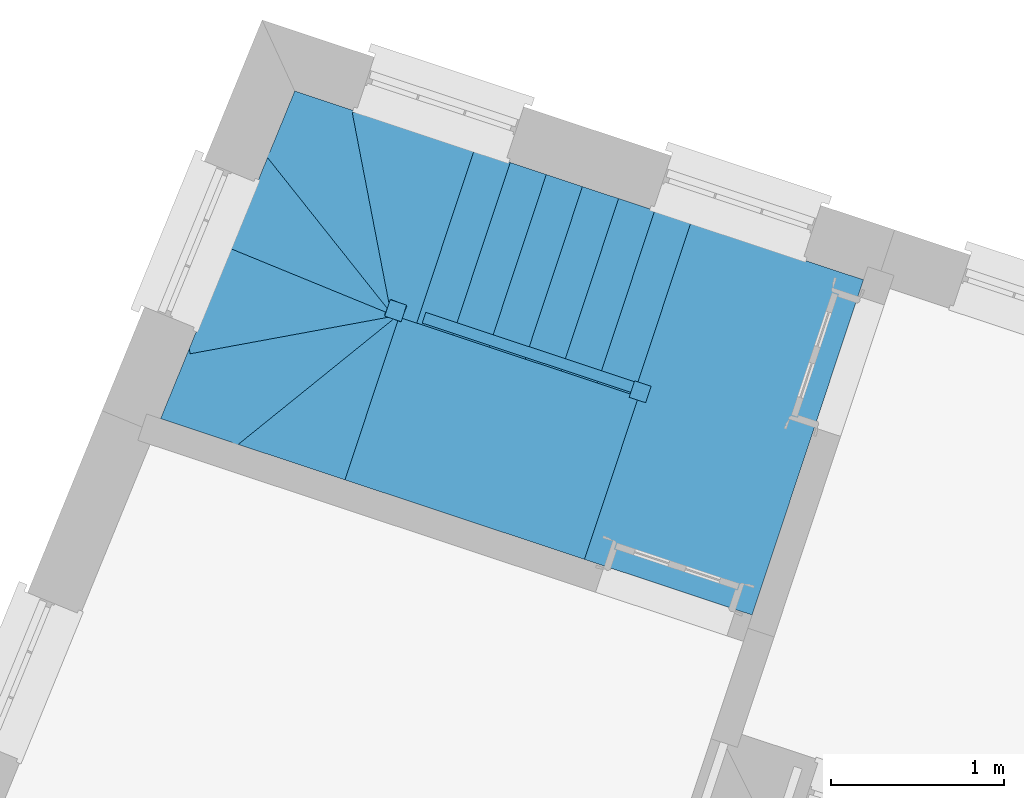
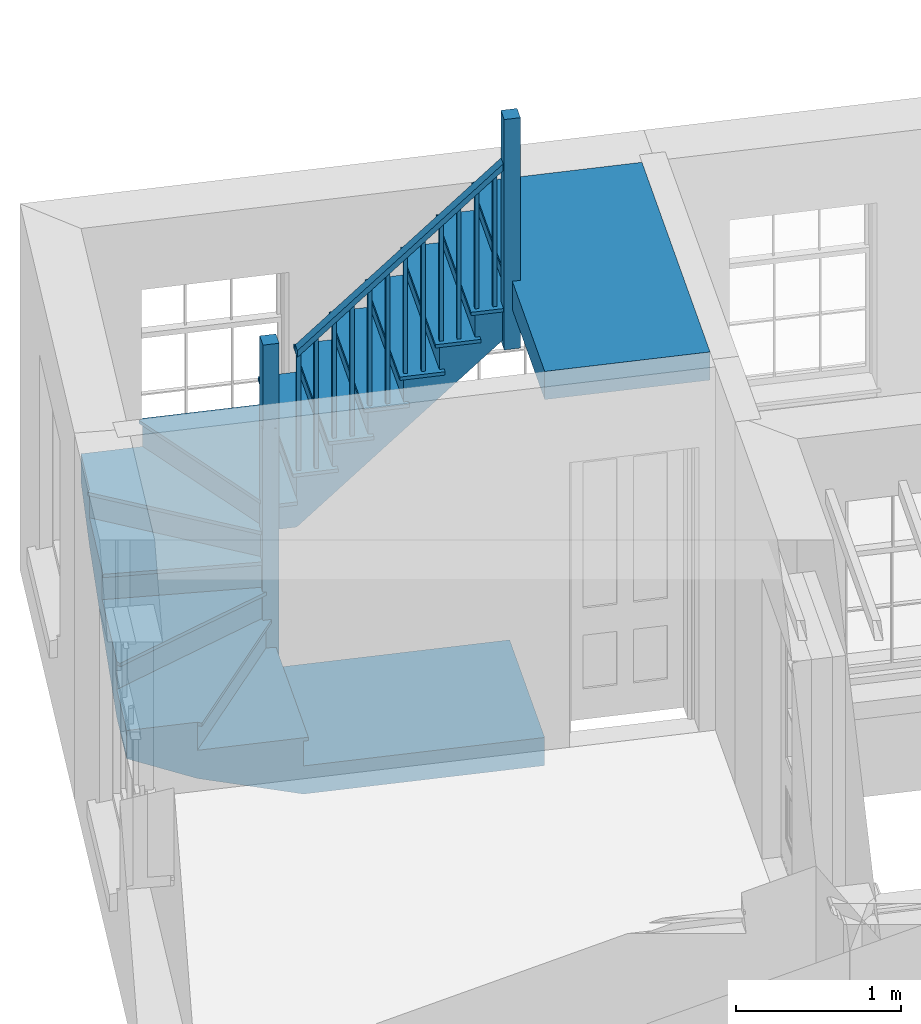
# One storey, part 6 of 6: 1 stair.
"""IFC4 building model written with IfcOpenShell, lengths in metres."""

from ifc_helpers import new_model, si_unit, frame, origin, origin_with_axes, place, context, subcontext, project, spatial, faceted_brep, element, save


model = new_model("IFC4")

# Units and contexts
model_context = context("Model", 3, world=origin_with_axes())
body_context = subcontext(model_context, "Body", "Model", "MODEL_VIEW")
ifc_project = project(units=[si_unit("PLANEANGLEUNIT", "RADIAN"), si_unit("MASSUNIT", "GRAM", prefix="KILO"), si_unit("FORCEUNIT", "NEWTON", prefix="KILO"), si_unit("LENGTHUNIT", "METRE"), si_unit("AREAUNIT", "SQUARE_METRE"), si_unit("VOLUMEUNIT", "CUBIC_METRE")], contexts=[model_context, model_context])

# Sites, building, storey
site_1_placement = place(None, origin_with_axes())
site_1 = spatial("IfcSite", under=ifc_project, at=site_1_placement, Name="Tamar")
site_2_placement = place(site_1_placement, origin_with_axes())
site_2 = spatial("IfcSite", under=site_1, at=site_2_placement, Name="Site plot-16", CompositionType="ELEMENT")
building_placement = place(None, origin_with_axes())
building = spatial("IfcBuilding", under=site_2, at=building_placement, Name="Building plot-16", CompositionType="ELEMENT")
storey_placement = place(None, frame((0.0, 0.0, 29.45), z_axis=(0.0, 0.0, 1.0), x_axis=(1.0, 0.0, 0.0)))
storey = spatial("IfcBuildingStorey", under=building, at=storey_placement, Name="plot-16 1", CompositionType="ELEMENT", Elevation=29.45)

# Stair
stair_placement = place(None, origin())
element("IfcStair", 1, at=stair_placement, inside=storey, Name="Stair", PredefinedType="NOTDEFINED", context=body_context, shape_type="Brep", body=[
    faceted_brep([(256.620166, 297.858366, 31.942308), (256.941605, 298.826727, 31.942308), (256.732808, 298.896036, 31.942308), (256.411368, 297.927675, 31.942308), (256.411368, 297.927675, 31.526923), (256.732808, 298.896036, 31.526923), (256.941605, 298.826727, 31.734615), (256.620166, 297.858366, 31.734615)], [[[0, 1, 2, 3]], [[4, 5, 6, 7]], [[7, 6, 1, 0]], [[1, 6, 5, 2]], [[5, 4, 3, 2]], [[3, 4, 7, 0]]]),
    faceted_brep([(256.732808, 298.896036, 31.917308), (256.704335, 298.905487, 31.917308), (256.732808, 298.896036, 31.942308), (256.970077, 298.817276, 31.917308), (256.941605, 298.826727, 31.917308), (256.941605, 298.826727, 31.942308), (256.704335, 298.905487, 31.942308), (256.970077, 298.817276, 31.942308), (256.373445, 297.908654, 31.942308), (256.411368, 297.927675, 31.942308), (256.411368, 297.927675, 31.917308), (256.373445, 297.908654, 31.917308), (256.639187, 297.820443, 31.942308), (256.620166, 297.858366, 31.942308), (256.620166, 297.858366, 31.917308), (256.639187, 297.820443, 31.917308)], [[[0, 1, 2]], [[3, 4, 5]], [[1, 6, 2]], [[7, 3, 5]], [[2, 6, 8, 9]], [[0, 2, 9, 10]], [[1, 0, 10, 11]], [[6, 1, 11, 8]], [[9, 8, 12, 13]], [[10, 9, 13, 14]], [[11, 10, 14, 15]], [[8, 11, 15, 12]], [[13, 12, 7, 5]], [[14, 13, 5, 4]], [[15, 14, 4, 3]], [[12, 15, 3, 7]]]),
    faceted_brep([(256.411368, 297.927675, 32.842308), (256.435095, 297.919799, 32.842308), (256.442971, 297.943526, 32.842308), (256.419244, 297.951402, 32.842308), (256.419244, 297.951402, 31.942308), (256.442971, 297.943526, 31.942308), (256.435095, 297.919799, 31.942308), (256.411368, 297.927675, 31.942308)], [[[0, 1, 2, 3]], [[4, 5, 6, 7]], [[7, 6, 1, 0]], [[6, 5, 2, 1]], [[5, 4, 3, 2]], [[4, 7, 0, 3]]]),
    faceted_brep([(256.515767, 297.893021, 32.946154), (256.539494, 297.885145, 32.946154), (256.54737, 297.908872, 32.946154), (256.523643, 297.916748, 32.946154), (256.523643, 297.916748, 31.942308), (256.54737, 297.908872, 31.942308), (256.539494, 297.885145, 31.942308), (256.515767, 297.893021, 31.942308)], [[[0, 1, 2, 3]], [[4, 5, 6, 7]], [[7, 6, 1, 0]], [[6, 5, 2, 1]], [[5, 4, 3, 2]], [[4, 7, 0, 3]]]),
    faceted_brep([(256.425545, 297.970384, 32.792308), (256.405068, 297.908693, 32.792308), (256.405068, 297.908693, 32.842308), (256.425545, 297.970384, 32.842308), (256.613865, 297.839385, 33.0), (256.634342, 297.901075, 33.0), (256.634342, 297.901075, 33.05), (256.613865, 297.839385, 33.05)], [[[0, 1, 2, 3]], [[4, 5, 6, 7]], [[0, 5, 4, 1]], [[3, 2, 7, 6]], [[0, 3, 6, 5]], [[2, 1, 4, 7]]]),
    faceted_brep([(256.411368, 297.927675, 31.734615), (256.732808, 298.896036, 31.734615), (256.52401, 298.965344, 31.734615), (256.202571, 297.996984, 31.734615), (256.202571, 297.996984, 31.319231), (256.52401, 298.965344, 31.319231), (256.732808, 298.896036, 31.526923), (256.411368, 297.927675, 31.526923)], [[[0, 1, 2, 3]], [[4, 5, 6, 7]], [[7, 6, 1, 0]], [[1, 6, 5, 2]], [[5, 4, 3, 2]], [[3, 4, 7, 0]]]),
    faceted_brep([(256.495538, 298.974796, 31.709615), (256.495538, 298.974796, 31.734615), (256.52401, 298.965344, 31.709615), (256.76128, 298.886585, 31.734615), (256.76128, 298.886585, 31.709615), (256.732808, 298.896036, 31.709615), (256.52401, 298.965344, 31.734615), (256.732808, 298.896036, 31.734615), (256.164647, 297.977962, 31.734615), (256.202571, 297.996984, 31.734615), (256.202571, 297.996984, 31.709615), (256.164647, 297.977962, 31.709615), (256.430389, 297.889751, 31.734615), (256.411368, 297.927675, 31.734615), (256.411368, 297.927675, 31.709615), (256.430389, 297.889751, 31.709615)], [[[0, 1, 2]], [[3, 4, 5]], [[2, 1, 6]], [[3, 5, 7]], [[6, 1, 8, 9]], [[2, 6, 9, 10]], [[0, 2, 10, 11]], [[1, 0, 11, 8]], [[9, 8, 12, 13]], [[10, 9, 13, 14]], [[11, 10, 14, 15]], [[8, 11, 15, 12]], [[13, 12, 3, 7]], [[14, 13, 7, 5]], [[15, 14, 5, 4]], [[12, 15, 4, 3]]]),
    faceted_brep([(256.202571, 297.996984, 32.634615), (256.226298, 297.989108, 32.634615), (256.234174, 298.012835, 32.634615), (256.210447, 298.02071, 32.634615), (256.210447, 298.02071, 31.734615), (256.234174, 298.012835, 31.734615), (256.226298, 297.989108, 31.734615), (256.202571, 297.996984, 31.734615)], [[[0, 1, 2, 3]], [[4, 5, 6, 7]], [[7, 6, 1, 0]], [[6, 5, 2, 1]], [[5, 4, 3, 2]], [[4, 7, 0, 3]]]),
    faceted_brep([(256.30697, 297.962329, 32.738462), (256.330697, 297.954453, 32.738462), (256.338573, 297.97818, 32.738462), (256.314846, 297.986056, 32.738462), (256.314846, 297.986056, 31.734615), (256.338573, 297.97818, 31.734615), (256.330697, 297.954453, 31.734615), (256.30697, 297.962329, 31.734615)], [[[0, 1, 2, 3]], [[4, 5, 6, 7]], [[7, 6, 1, 0]], [[6, 5, 2, 1]], [[5, 4, 3, 2]], [[4, 7, 0, 3]]]),
    faceted_brep([(256.216748, 298.039692, 32.584615), (256.19627, 297.978002, 32.584615), (256.19627, 297.978002, 32.634615), (256.216748, 298.039692, 32.634615), (256.405068, 297.908693, 32.792308), (256.425545, 297.970384, 32.792308), (256.425545, 297.970384, 32.842308), (256.405068, 297.908693, 32.842308)], [[[0, 1, 2, 3]], [[4, 5, 6, 7]], [[0, 5, 4, 1]], [[3, 2, 7, 6]], [[0, 3, 6, 5]], [[2, 1, 4, 7]]]),
    faceted_brep([(256.202571, 297.996984, 31.526923), (256.52401, 298.965344, 31.526923), (256.315213, 299.034653, 31.526923), (255.993774, 298.066292, 31.526923), (255.993774, 298.066292, 31.111538), (256.315213, 299.034653, 31.111538), (256.52401, 298.965344, 31.319231), (256.202571, 297.996984, 31.319231)], [[[0, 1, 2, 3]], [[4, 5, 6, 7]], [[7, 6, 1, 0]], [[1, 6, 5, 2]], [[5, 4, 3, 2]], [[3, 4, 7, 0]]]),
    faceted_brep([(256.315213, 299.034653, 31.501923), (256.28674, 299.044104, 31.501923), (256.315213, 299.034653, 31.526923), (256.552483, 298.955893, 31.501923), (256.52401, 298.965344, 31.501923), (256.52401, 298.965344, 31.526923), (256.28674, 299.044104, 31.526923), (256.552483, 298.955893, 31.526923), (255.95585, 298.047271, 31.526923), (255.993774, 298.066292, 31.526923), (255.993774, 298.066292, 31.501923), (255.95585, 298.047271, 31.501923), (256.221592, 297.95906, 31.526923), (256.202571, 297.996984, 31.526923), (256.202571, 297.996984, 31.501923), (256.221592, 297.95906, 31.501923)], [[[0, 1, 2]], [[3, 4, 5]], [[1, 6, 2]], [[7, 3, 5]], [[2, 6, 8, 9]], [[0, 2, 9, 10]], [[1, 0, 10, 11]], [[6, 1, 11, 8]], [[9, 8, 12, 13]], [[10, 9, 13, 14]], [[11, 10, 14, 15]], [[8, 11, 15, 12]], [[13, 12, 7, 5]], [[14, 13, 5, 4]], [[15, 14, 4, 3]], [[12, 15, 3, 7]]]),
    faceted_brep([(255.993774, 298.066292, 32.426923), (256.017501, 298.058416, 32.426923), (256.025377, 298.082143, 32.426923), (256.00165, 298.090019, 32.426923), (256.00165, 298.090019, 31.526923), (256.025377, 298.082143, 31.526923), (256.017501, 298.058416, 31.526923), (255.993774, 298.066292, 31.526923)], [[[0, 1, 2, 3]], [[4, 5, 6, 7]], [[7, 6, 1, 0]], [[6, 5, 2, 1]], [[5, 4, 3, 2]], [[4, 7, 0, 3]]]),
    faceted_brep([(256.098172, 298.031638, 32.530769), (256.121899, 298.023762, 32.530769), (256.129775, 298.047489, 32.530769), (256.106048, 298.055365, 32.530769), (256.106048, 298.055365, 31.526923), (256.129775, 298.047489, 31.526923), (256.121899, 298.023762, 31.526923), (256.098172, 298.031638, 31.526923)], [[[0, 1, 2, 3]], [[4, 5, 6, 7]], [[7, 6, 1, 0]], [[6, 5, 2, 1]], [[5, 4, 3, 2]], [[4, 7, 0, 3]]]),
    faceted_brep([(256.00795, 298.109001, 32.376923), (255.987473, 298.04731, 32.376923), (255.987473, 298.04731, 32.426923), (256.00795, 298.109001, 32.426923), (256.19627, 297.978002, 32.584615), (256.216748, 298.039692, 32.584615), (256.216748, 298.039692, 32.634615), (256.19627, 297.978002, 32.634615)], [[[0, 1, 2, 3]], [[4, 5, 6, 7]], [[0, 5, 4, 1]], [[3, 2, 7, 6]], [[0, 3, 6, 5]], [[2, 1, 4, 7]]]),
    faceted_brep([(255.993774, 298.066292, 31.319231), (256.315213, 299.034653, 31.319231), (256.106415, 299.103961, 31.319231), (255.784976, 298.135601, 31.319231), (255.784976, 298.135601, 30.903846), (256.106415, 299.103961, 30.903846), (256.315213, 299.034653, 31.111538), (255.993774, 298.066292, 31.111538)], [[[0, 1, 2, 3]], [[4, 5, 6, 7]], [[7, 6, 1, 0]], [[1, 6, 5, 2]], [[5, 4, 3, 2]], [[3, 4, 7, 0]]]),
    faceted_brep([(256.077943, 299.113413, 31.294231), (256.077943, 299.113413, 31.319231), (256.106415, 299.103961, 31.294231), (256.343685, 299.025202, 31.319231), (256.343685, 299.025202, 31.294231), (256.315213, 299.034653, 31.294231), (256.106415, 299.103961, 31.319231), (256.315213, 299.034653, 31.319231), (255.747053, 298.116579, 31.319231), (255.784976, 298.135601, 31.319231), (255.784976, 298.135601, 31.294231), (255.747053, 298.116579, 31.294231), (256.012795, 298.028369, 31.319231), (255.993774, 298.066292, 31.319231), (255.993774, 298.066292, 31.294231), (256.012795, 298.028369, 31.294231)], [[[0, 1, 2]], [[3, 4, 5]], [[2, 1, 6]], [[3, 5, 7]], [[6, 1, 8, 9]], [[2, 6, 9, 10]], [[0, 2, 10, 11]], [[1, 0, 11, 8]], [[9, 8, 12, 13]], [[10, 9, 13, 14]], [[11, 10, 14, 15]], [[8, 11, 15, 12]], [[13, 12, 3, 7]], [[14, 13, 7, 5]], [[15, 14, 5, 4]], [[12, 15, 4, 3]]]),
    faceted_brep([(255.784976, 298.135601, 32.219231), (255.808703, 298.127725, 32.219231), (255.816579, 298.151452, 32.219231), (255.792852, 298.159328, 32.219231), (255.792852, 298.159328, 31.319231), (255.816579, 298.151452, 31.319231), (255.808703, 298.127725, 31.319231), (255.784976, 298.135601, 31.319231)], [[[0, 1, 2, 3]], [[4, 5, 6, 7]], [[7, 6, 1, 0]], [[6, 5, 2, 1]], [[5, 4, 3, 2]], [[4, 7, 0, 3]]]),
    faceted_brep([(255.889375, 298.100946, 32.323077), (255.913102, 298.09307, 32.323077), (255.920978, 298.116797, 32.323077), (255.897251, 298.124673, 32.323077), (255.897251, 298.124673, 31.319231), (255.920978, 298.116797, 31.319231), (255.913102, 298.09307, 31.319231), (255.889375, 298.100946, 31.319231)], [[[0, 1, 2, 3]], [[4, 5, 6, 7]], [[7, 6, 1, 0]], [[6, 5, 2, 1]], [[5, 4, 3, 2]], [[4, 7, 0, 3]]]),
    faceted_brep([(255.799153, 298.178309, 32.169231), (255.778675, 298.116619, 32.169231), (255.778675, 298.116619, 32.219231), (255.799153, 298.178309, 32.219231), (255.987473, 298.04731, 32.376923), (256.00795, 298.109001, 32.376923), (256.00795, 298.109001, 32.426923), (255.987473, 298.04731, 32.426923)], [[[0, 1, 2, 3]], [[4, 5, 6, 7]], [[0, 5, 4, 1]], [[3, 2, 7, 6]], [[0, 3, 6, 5]], [[2, 1, 4, 7]]]),
    faceted_brep([(255.784976, 298.135601, 31.111538), (256.106415, 299.103961, 31.111538), (255.897618, 299.17327, 31.111538), (255.576179, 298.204909, 31.111538), (255.576179, 298.204909, 30.696154), (255.897618, 299.17327, 30.696154), (256.106415, 299.103961, 30.903846), (255.784976, 298.135601, 30.903846)], [[[0, 1, 2, 3]], [[4, 5, 6, 7]], [[7, 6, 1, 0]], [[1, 6, 5, 2]], [[5, 4, 3, 2]], [[3, 4, 7, 0]]]),
    faceted_brep([(255.897618, 299.17327, 31.086538), (255.869146, 299.182721, 31.086538), (255.897618, 299.17327, 31.111538), (256.134888, 299.09451, 31.086538), (256.106415, 299.103961, 31.086538), (256.106415, 299.103961, 31.111538), (255.869146, 299.182721, 31.111538), (256.134888, 299.09451, 31.111538), (255.538255, 298.185888, 31.111538), (255.576179, 298.204909, 31.111538), (255.576179, 298.204909, 31.086538), (255.538255, 298.185888, 31.086538), (255.803997, 298.097677, 31.111538), (255.784976, 298.135601, 31.111538), (255.784976, 298.135601, 31.086538), (255.803997, 298.097677, 31.086538)], [[[0, 1, 2]], [[3, 4, 5]], [[1, 6, 2]], [[7, 3, 5]], [[2, 6, 8, 9]], [[0, 2, 9, 10]], [[1, 0, 10, 11]], [[6, 1, 11, 8]], [[9, 8, 12, 13]], [[10, 9, 13, 14]], [[11, 10, 14, 15]], [[8, 11, 15, 12]], [[13, 12, 7, 5]], [[14, 13, 5, 4]], [[15, 14, 4, 3]], [[12, 15, 3, 7]]]),
    faceted_brep([(255.576179, 298.204909, 32.011538), (255.599906, 298.197033, 32.011538), (255.607782, 298.22076, 32.011538), (255.584055, 298.228636, 32.011538), (255.584055, 298.228636, 31.111538), (255.607782, 298.22076, 31.111538), (255.599906, 298.197033, 31.111538), (255.576179, 298.204909, 31.111538)], [[[0, 1, 2, 3]], [[4, 5, 6, 7]], [[7, 6, 1, 0]], [[6, 5, 2, 1]], [[5, 4, 3, 2]], [[4, 7, 0, 3]]]),
    faceted_brep([(255.680578, 298.170255, 32.115385), (255.704305, 298.162379, 32.115385), (255.712181, 298.186106, 32.115385), (255.688454, 298.193982, 32.115385), (255.688454, 298.193982, 31.111538), (255.712181, 298.186106, 31.111538), (255.704305, 298.162379, 31.111538), (255.680578, 298.170255, 31.111538)], [[[0, 1, 2, 3]], [[4, 5, 6, 7]], [[7, 6, 1, 0]], [[6, 5, 2, 1]], [[5, 4, 3, 2]], [[4, 7, 0, 3]]]),
    faceted_brep([(255.590356, 298.247618, 31.961538), (255.569878, 298.185927, 31.961538), (255.569878, 298.185927, 32.011538), (255.590356, 298.247618, 32.011538), (255.778675, 298.116619, 32.169231), (255.799153, 298.178309, 32.169231), (255.799153, 298.178309, 32.219231), (255.778675, 298.116619, 32.219231)], [[[0, 1, 2, 3]], [[4, 5, 6, 7]], [[0, 5, 4, 1]], [[3, 2, 7, 6]], [[0, 3, 6, 5]], [[2, 1, 4, 7]]]),
    faceted_brep([(255.576179, 298.204909, 30.903846), (255.897618, 299.17327, 30.903846), (255.688821, 299.242578, 30.903846), (255.367382, 298.274218, 30.903846), (255.367382, 298.274218, 30.488462), (255.688821, 299.242578, 30.488462), (255.897618, 299.17327, 30.696154), (255.576179, 298.204909, 30.696154)], [[[0, 1, 2, 3]], [[4, 5, 6, 7]], [[7, 6, 1, 0]], [[1, 6, 5, 2]], [[5, 4, 3, 2]], [[3, 4, 7, 0]]]),
    faceted_brep([(255.688821, 299.242578, 30.878846), (255.660348, 299.25203, 30.878846), (255.688821, 299.242578, 30.903846), (255.92609, 299.163819, 30.878846), (255.897618, 299.17327, 30.878846), (255.897618, 299.17327, 30.903846), (255.660348, 299.25203, 30.903846), (255.92609, 299.163819, 30.903846), (255.329458, 298.255196, 30.903846), (255.367382, 298.274218, 30.903846), (255.367382, 298.274218, 30.878846), (255.329458, 298.255196, 30.878846), (255.5952, 298.166986, 30.903846), (255.576179, 298.204909, 30.903846), (255.576179, 298.204909, 30.878846), (255.5952, 298.166986, 30.878846)], [[[0, 1, 2]], [[3, 4, 5]], [[1, 6, 2]], [[7, 3, 5]], [[2, 6, 8, 9]], [[0, 2, 9, 10]], [[1, 0, 10, 11]], [[6, 1, 11, 8]], [[9, 8, 12, 13]], [[10, 9, 13, 14]], [[11, 10, 14, 15]], [[8, 11, 15, 12]], [[13, 12, 7, 5]], [[14, 13, 5, 4]], [[15, 14, 4, 3]], [[12, 15, 3, 7]]]),
    faceted_brep([(255.367382, 298.274218, 31.803846), (255.391109, 298.266342, 31.803846), (255.398985, 298.290069, 31.803846), (255.375258, 298.297945, 31.803846), (255.375258, 298.297945, 30.903846), (255.398985, 298.290069, 30.903846), (255.391109, 298.266342, 30.903846), (255.367382, 298.274218, 30.903846)], [[[0, 1, 2, 3]], [[4, 5, 6, 7]], [[7, 6, 1, 0]], [[6, 5, 2, 1]], [[5, 4, 3, 2]], [[4, 7, 0, 3]]]),
    faceted_brep([(255.47178, 298.239563, 31.907692), (255.495507, 298.231687, 31.907692), (255.503383, 298.255414, 31.907692), (255.479656, 298.26329, 31.907692), (255.479656, 298.26329, 30.903846), (255.503383, 298.255414, 30.903846), (255.495507, 298.231687, 30.903846), (255.47178, 298.239563, 30.903846)], [[[0, 1, 2, 3]], [[4, 5, 6, 7]], [[7, 6, 1, 0]], [[6, 5, 2, 1]], [[5, 4, 3, 2]], [[4, 7, 0, 3]]]),
    faceted_brep([(255.381558, 298.316926, 31.753846), (255.361081, 298.255236, 31.753846), (255.361081, 298.255236, 31.803846), (255.381558, 298.316926, 31.803846), (255.569878, 298.185927, 31.961538), (255.590356, 298.247618, 31.961538), (255.590356, 298.247618, 32.011538), (255.569878, 298.185927, 32.011538)], [[[0, 1, 2, 3]], [[4, 5, 6, 7]], [[0, 5, 4, 1]], [[3, 2, 7, 6]], [[0, 3, 6, 5]], [[2, 1, 4, 7]]]),
    faceted_brep([(255.367382, 298.274218, 30.696154), (255.688821, 299.242578, 30.696154), (255.52919, 299.295567, 30.696154), (255.207751, 298.327206, 30.696154), (255.207751, 298.327206, 30.488462), (255.52919, 299.295567, 30.488462), (255.688821, 299.242578, 30.488462), (255.367382, 298.274218, 30.488462)], [[[0, 1, 2, 3]], [[4, 5, 6, 7]], [[7, 6, 1, 0]], [[6, 5, 2, 1]], [[5, 4, 3, 2]], [[4, 7, 0, 3]]]),
    faceted_brep([(255.198299, 298.298733, 30.671154), (255.198299, 298.298733, 30.696154), (255.207751, 298.327206, 30.671154), (255.35793, 298.245745, 30.696154), (255.35793, 298.245745, 30.671154), (255.367382, 298.274218, 30.671154), (255.207751, 298.327206, 30.696154), (255.367382, 298.274218, 30.696154)], [[[0, 1, 2]], [[3, 4, 5]], [[2, 1, 6]], [[3, 5, 7]], [[6, 1, 3, 7]], [[2, 6, 7, 5]], [[0, 2, 5, 4]], [[1, 0, 4, 3]]]),
    faceted_brep([(255.144545, 298.295504, 31.896154), (255.239453, 298.264, 31.896154), (255.270956, 298.358908, 31.896154), (255.176048, 298.390412, 31.896154), (255.176048, 298.390412, 30.696154), (255.270956, 298.358908, 30.696154), (255.239453, 298.264, 30.696154), (255.144545, 298.295504, 30.696154)], [[[0, 1, 2, 3]], [[4, 5, 6, 7]], [[7, 6, 1, 0]], [[6, 5, 2, 1]], [[5, 4, 3, 2]], [[4, 7, 0, 3]]]),
    faceted_brep([(255.52919, 299.295567, 30.696154), (254.986502, 299.475707, 30.696154), (255.207751, 298.327206, 30.696154), (255.207751, 298.327206, 30.280769), (254.986502, 299.475707, 30.280769), (255.52919, 299.295567, 30.488462)], [[[0, 1, 2]], [[3, 4, 5]], [[0, 5, 4, 1]], [[4, 3, 2, 1]], [[2, 3, 5, 0]]]),
    faceted_brep([(254.986502, 299.475707, 30.671154), (254.957043, 299.470032, 30.671154), (254.986502, 299.475707, 30.696154), (255.178292, 298.321531, 30.671154), (255.207751, 298.327206, 30.671154), (255.207751, 298.327206, 30.696154), (254.957043, 299.470032, 30.696154), (255.178292, 298.321531, 30.696154)], [[[0, 1, 2]], [[3, 4, 5]], [[1, 6, 2]], [[7, 3, 5]], [[2, 6, 7, 5]], [[0, 2, 5, 4]], [[1, 0, 4, 3]], [[6, 1, 3, 7]]]),
    faceted_brep([(254.986502, 299.475707, 30.488462), (254.62471, 299.595801, 30.488462), (254.480243, 299.243033, 30.488462), (255.207751, 298.327206, 30.488462), (255.207751, 298.327206, 30.073077), (254.480243, 299.243033, 30.073077), (254.62471, 299.595801, 30.280769), (254.986502, 299.475707, 30.280769)], [[[0, 1, 2, 3]], [[4, 5, 6, 7]], [[7, 6, 1, 0]], [[1, 6, 5, 2]], [[5, 4, 3, 2]], [[3, 4, 7, 0]]]),
    faceted_brep([(254.480243, 299.243033, 30.463462), (254.456752, 299.224373, 30.463462), (254.480243, 299.243033, 30.488462), (255.18426, 298.308546, 30.463462), (255.207751, 298.327206, 30.463462), (255.207751, 298.327206, 30.488462), (254.456752, 299.224373, 30.488462), (255.18426, 298.308546, 30.488462)], [[[0, 1, 2]], [[3, 4, 5]], [[1, 6, 2]], [[7, 3, 5]], [[2, 6, 7, 5]], [[0, 2, 5, 4]], [[1, 0, 4, 3]], [[6, 1, 3, 7]]]),
    faceted_brep([(254.480243, 299.243033, 30.280769), (254.263543, 298.713881, 30.280769), (255.207751, 298.327206, 30.280769), (255.207751, 298.327206, 29.865385), (254.263543, 298.713881, 29.865385), (254.480243, 299.243033, 30.073077)], [[[0, 1, 2]], [[3, 4, 5]], [[0, 5, 4, 1]], [[4, 3, 2, 1]], [[2, 3, 5, 0]]]),
    faceted_brep([(254.263543, 298.713881, 30.255769), (254.252173, 298.686119, 30.255769), (254.263543, 298.713881, 30.280769), (255.196381, 298.299444, 30.255769), (255.207751, 298.327206, 30.255769), (255.207751, 298.327206, 30.280769), (254.252173, 298.686119, 30.280769), (255.196381, 298.299444, 30.280769)], [[[0, 1, 2]], [[3, 4, 5]], [[1, 6, 2]], [[7, 3, 5]], [[2, 6, 7, 5]], [[0, 2, 5, 4]], [[1, 0, 4, 3]], [[6, 1, 3, 7]]]),
    faceted_brep([(255.144545, 298.295504, 30.696154), (255.239453, 298.264, 30.696154), (255.270956, 298.358908, 30.696154), (255.176048, 298.390412, 30.696154), (255.176048, 298.390412, 29.780769), (255.270956, 298.358908, 29.780769), (255.239453, 298.264, 29.780769), (255.144545, 298.295504, 29.780769)], [[[0, 1, 2, 3]], [[4, 5, 6, 7]], [[7, 6, 1, 0]], [[6, 5, 2, 1]], [[5, 4, 3, 2]], [[4, 7, 0, 3]]]),
    faceted_brep([(255.207751, 298.327206, 29.865385), (254.263543, 298.713881, 29.865385), (254.263543, 298.713881, 30.073077), (255.207751, 298.327206, 30.073077)], [[[0, 1, 2, 3]], [[1, 0, 3, 2]]]),
    faceted_brep([(255.207751, 298.327206, 30.048077), (255.237751, 298.327206, 30.048077), (255.207751, 298.327206, 30.073077), (255.237751, 298.327206, 30.073077)], [[[0, 1, 2]], [[1, 0, 2]], [[1, 3, 2]], [[3, 1, 2]]]),
    faceted_brep([(255.235072, 298.261987, 31.273077), (255.27297, 298.354527, 31.273077), (255.180429, 298.392425, 31.273077), (255.142531, 298.299884, 31.273077), (255.142531, 298.299884, 30.073077), (255.180429, 298.392425, 30.073077), (255.27297, 298.354527, 30.073077), (255.235072, 298.261987, 30.073077)], [[[0, 1, 2, 3]], [[4, 5, 6, 7]], [[7, 6, 1, 0]], [[6, 5, 2, 1]], [[5, 4, 3, 2]], [[4, 7, 0, 3]]]),
    faceted_brep([(254.263543, 298.713881, 30.073077), (254.015152, 298.107344, 30.073077), (255.207751, 298.327206, 30.073077), (255.207751, 298.327206, 29.657692), (254.015152, 298.107344, 29.657692), (254.263543, 298.713881, 29.865385)], [[[0, 1, 2]], [[3, 4, 5]], [[0, 5, 4, 1]], [[4, 3, 2, 1]], [[2, 3, 5, 0]]]),
    faceted_brep([(254.020591, 298.077841, 30.048077), (254.020591, 298.077841, 30.073077), (254.015152, 298.107344, 30.048077), (255.21319, 298.297703, 30.073077), (255.21319, 298.297703, 30.048077), (255.207751, 298.327206, 30.048077), (254.015152, 298.107344, 30.073077), (255.207751, 298.327206, 30.073077)], [[[0, 1, 2]], [[3, 4, 5]], [[2, 1, 6]], [[3, 5, 7]], [[6, 1, 3, 7]], [[2, 6, 7, 5]], [[0, 2, 5, 4]], [[1, 0, 4, 3]]]),
    faceted_brep([(254.015152, 298.107344, 29.865385), (253.849558, 297.702986, 29.865385), (254.264259, 297.56533, 29.865385), (255.207751, 298.327206, 29.865385), (255.207751, 298.327206, 29.45), (254.264259, 297.56533, 29.45), (253.849558, 297.702986, 29.657692), (254.015152, 298.107344, 29.657692)], [[[0, 1, 2, 3]], [[4, 5, 6, 7]], [[7, 6, 1, 0]], [[1, 6, 5, 2]], [[5, 4, 3, 2]], [[3, 4, 7, 0]]]),
    faceted_brep([(254.283107, 297.541989, 29.840385), (254.283107, 297.541989, 29.865385), (254.264259, 297.56533, 29.840385), (255.226598, 298.303865, 29.865385), (255.226598, 298.303865, 29.840385), (255.207751, 298.327206, 29.840385), (254.264259, 297.56533, 29.865385), (255.207751, 298.327206, 29.865385)], [[[0, 1, 2]], [[3, 4, 5]], [[2, 1, 6]], [[3, 5, 7]], [[6, 1, 3, 7]], [[2, 6, 7, 5]], [[0, 2, 5, 4]], [[1, 0, 4, 3]]]),
    faceted_brep([(254.264259, 297.56533, 29.657692), (254.886311, 297.358845, 29.657692), (255.207751, 298.327206, 29.657692), (255.207751, 298.327206, 29.242308), (254.886311, 297.358845, 29.242308), (254.264259, 297.56533, 29.45)], [[[0, 1, 2]], [[3, 4, 5]], [[0, 5, 4, 1]], [[4, 3, 2, 1]], [[2, 3, 5, 0]]]),
    faceted_brep([(254.886311, 297.358845, 29.632692), (254.914784, 297.349394, 29.632692), (254.886311, 297.358845, 29.657692), (255.236223, 298.317755, 29.632692), (255.207751, 298.327206, 29.632692), (255.207751, 298.327206, 29.657692), (254.914784, 297.349394, 29.657692), (255.236223, 298.317755, 29.657692)], [[[0, 1, 2]], [[3, 4, 5]], [[1, 6, 2]], [[7, 3, 5]], [[2, 6, 7, 5]], [[0, 2, 5, 4]], [[1, 0, 4, 3]], [[6, 1, 3, 7]]]),
    faceted_brep([(255.235072, 298.261987, 30.073077), (255.27297, 298.354527, 30.073077), (255.180429, 298.392425, 30.073077), (255.142531, 298.299884, 30.073077), (255.142531, 298.299884, 29.157692), (255.180429, 298.392425, 29.157692), (255.27297, 298.354527, 29.157692), (255.235072, 298.261987, 29.157692)], [[[0, 1, 2, 3]], [[4, 5, 6, 7]], [[7, 6, 1, 0]], [[6, 5, 2, 1]], [[5, 4, 3, 2]], [[4, 7, 0, 3]]]),
    faceted_brep([(255.207751, 298.327206, 29.45), (254.886311, 297.358845, 29.45), (256.298726, 296.890006, 29.45), (256.620166, 297.858366, 29.45), (256.620166, 297.858366, 29.242308), (256.298726, 296.890006, 29.242308), (254.886311, 297.358845, 29.242308), (255.207751, 298.327206, 29.242308)], [[[0, 1, 2, 3]], [[4, 5, 6, 7]], [[7, 6, 1, 0]], [[6, 5, 2, 1]], [[5, 4, 3, 2]], [[4, 7, 0, 3]]]),
    faceted_brep([(256.629617, 297.886839, 29.425), (256.629617, 297.886839, 29.45), (256.620166, 297.858366, 29.425), (255.217202, 298.355678, 29.45), (255.217202, 298.355678, 29.425), (255.207751, 298.327206, 29.425), (256.620166, 297.858366, 29.45), (255.207751, 298.327206, 29.45)], [[[0, 1, 2]], [[3, 4, 5]], [[2, 1, 6]], [[3, 5, 7]], [[6, 1, 3, 7]], [[2, 6, 7, 5]], [[0, 2, 5, 4]], [[1, 0, 4, 3]]]),
    faceted_brep([(256.683372, 297.890069, 33.35), (256.588464, 297.921572, 33.35), (256.55696, 297.826664, 33.35), (256.651868, 297.795161, 33.35), (256.651868, 297.795161, 32.15), (256.55696, 297.826664, 32.15), (256.588464, 297.921572, 32.15), (256.683372, 297.890069, 32.15)], [[[0, 1, 2, 3]], [[4, 5, 6, 7]], [[7, 6, 1, 0]], [[6, 5, 2, 1]], [[5, 4, 3, 2]], [[4, 7, 0, 3]]]),
    faceted_brep([(256.620166, 297.858366, 32.15), (256.298726, 296.890006, 32.15), (257.267087, 296.568566, 32.15), (257.588527, 297.536927, 32.15), (257.588527, 297.536927, 31.942308), (257.267087, 296.568566, 31.942308), (256.298726, 296.890006, 31.942308), (256.620166, 297.858366, 31.942308)], [[[0, 1, 2, 3]], [[4, 5, 6, 7]], [[7, 6, 1, 0]], [[6, 5, 2, 1]], [[5, 4, 3, 2]], [[4, 7, 0, 3]]]),
    faceted_brep([(257.597978, 297.5654, 32.125), (257.597978, 297.5654, 32.15), (257.588527, 297.536927, 32.125), (256.629617, 297.886839, 32.15), (256.629617, 297.886839, 32.125), (256.620166, 297.858366, 32.125), (257.588527, 297.536927, 32.15), (256.620166, 297.858366, 32.15)], [[[0, 1, 2]], [[3, 4, 5]], [[2, 1, 6]], [[3, 5, 7]], [[6, 1, 3, 7]], [[2, 6, 7, 5]], [[0, 2, 5, 4]], [[1, 0, 4, 3]]]),
    faceted_brep([(256.683372, 297.890069, 32.15), (256.588464, 297.921572, 32.15), (256.55696, 297.826664, 32.15), (256.651868, 297.795161, 32.15), (256.651868, 297.795161, 31.65), (256.55696, 297.826664, 31.65), (256.588464, 297.921572, 31.65), (256.683372, 297.890069, 31.65)], [[[0, 1, 2, 3]], [[4, 5, 6, 7]], [[7, 6, 1, 0]], [[6, 5, 2, 1]], [[5, 4, 3, 2]], [[4, 7, 0, 3]]]),
    faceted_brep([(256.620166, 297.858366, 31.942308), (257.588527, 297.536927, 31.942308), (257.588527, 297.536927, 32.15), (256.620166, 297.858366, 32.15)], [[[0, 1, 2, 3]], [[1, 0, 3, 2]]]),
    faceted_brep([(256.620166, 297.858366, 32.125), (256.650166, 297.858366, 32.125), (256.620166, 297.858366, 32.15), (256.650166, 297.858366, 32.15)], [[[0, 1, 2]], [[1, 0, 2]], [[1, 3, 2]], [[3, 1, 2]]]),
    faceted_brep([(256.588464, 297.921572, 33.35), (256.55696, 297.826664, 33.35), (256.651868, 297.795161, 33.35), (256.683372, 297.890069, 33.35), (256.683372, 297.890069, 32.15), (256.651868, 297.795161, 32.15), (256.55696, 297.826664, 32.15), (256.588464, 297.921572, 32.15)], [[[0, 1, 2, 3]], [[4, 5, 6, 7]], [[7, 6, 1, 0]], [[6, 5, 2, 1]], [[5, 4, 3, 2]], [[4, 7, 0, 3]]]),
    faceted_brep([(256.620166, 297.858366, 32.15), (257.588527, 297.536927, 32.15), (257.909966, 298.505288, 32.15), (256.941605, 298.826727, 32.15), (256.941605, 298.826727, 31.942308), (257.909966, 298.505288, 31.942308), (257.588527, 297.536927, 31.942308), (256.620166, 297.858366, 31.942308)], [[[0, 1, 2, 3]], [[4, 5, 6, 7]], [[7, 6, 1, 0]], [[6, 5, 2, 1]], [[5, 4, 3, 2]], [[4, 7, 0, 3]]]),
    faceted_brep([(256.941605, 298.826727, 32.125), (256.913132, 298.836179, 32.125), (256.941605, 298.826727, 32.15), (256.591693, 297.867818, 32.125), (256.620166, 297.858366, 32.125), (256.620166, 297.858366, 32.15), (256.913132, 298.836179, 32.15), (256.591693, 297.867818, 32.15)], [[[0, 1, 2]], [[3, 4, 5]], [[1, 6, 2]], [[7, 3, 5]], [[2, 6, 7, 5]], [[0, 2, 5, 4]], [[1, 0, 4, 3]], [[6, 1, 3, 7]]]),
    faceted_brep([(256.588464, 297.921572, 32.15), (256.55696, 297.826664, 32.15), (256.651868, 297.795161, 32.15), (256.683372, 297.890069, 32.15), (256.683372, 297.890069, 31.65), (256.651868, 297.795161, 31.65), (256.55696, 297.826664, 31.65), (256.588464, 297.921572, 31.65)], [[[0, 1, 2, 3]], [[4, 5, 6, 7]], [[7, 6, 1, 0]], [[6, 5, 2, 1]], [[5, 4, 3, 2]], [[4, 7, 0, 3]]]),
])

save(model, "model.ifc")
